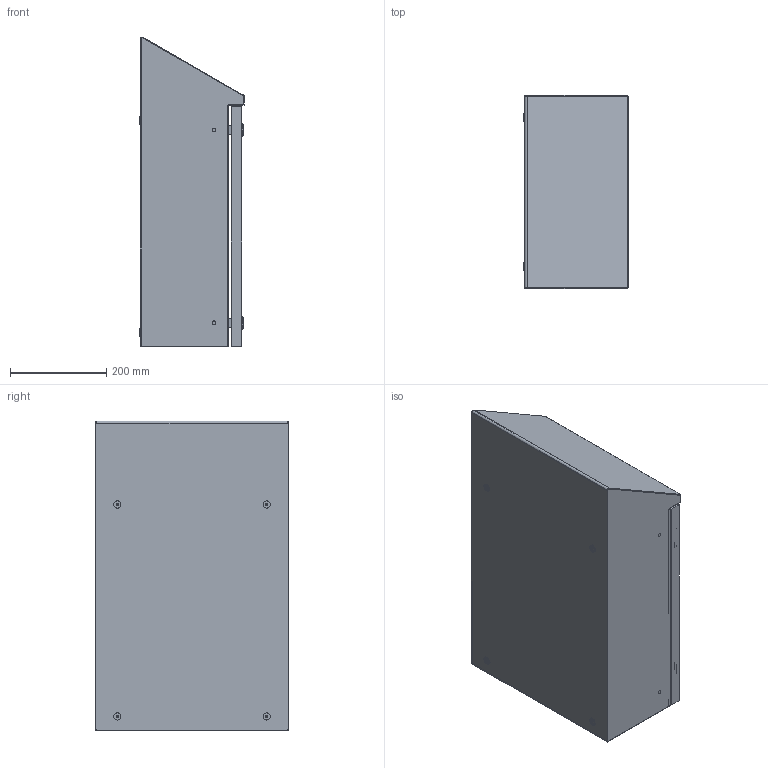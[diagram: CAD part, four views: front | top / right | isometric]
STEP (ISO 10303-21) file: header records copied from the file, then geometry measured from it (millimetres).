
FILE_DESCRIPTION(/* description */ ('Unknown'),/* implementation_level */ '2;1');
FILE_NAME(/* name */ 'CHA04005021',/* time_stamp */ '2024-10-08T08:28:17+02:00',/* author */ ('Unknown'),/* organization */ ('Unknown'),/* preprocessor_version */ 'ST-DEVELOPER v19.4',/* originating_system */ 'Solid Edge',/* authorisation */ 'Unknown');
FILE_SCHEMA (('CONFIG_CONTROL_DESIGN'));
Length unit declared in the file: millimetre
Products named in the file (16): CHA04005021; C000X002.14; C0000001.91; C0000000.04; AE00316.01; AE00601.01; C0000000.05; C0000000.01; AE00891.02; AE00417.01; C000X000.19_oa_0; C000X000.20_oa_1; C0000000.32; C0000000.02; AE00198.02; AE00989.09
Assembly tree (33 placements, depth 4):
  CHA04005021
    C000X002.14
      C0000001.91
      C0000000.04  x4
      AE00316.01  x2
      AE00601.01  x2
      C0000000.05  x4
      C0000000.01  x2
      AE00891.02  x2
      AE00417.01  x4
    C000X000.19_oa_0
      C000X000.20_oa_1
        C0000000.32
      C0000000.02  x2
      AE00198.02  x2
      AE00989.09  x2
      AE00417.01  x2
Bounding box: 216 x 400.11 x 643.05 mm (x, y, z)
Volume: 1663107.3 mm3; surface area: 1918563.9 mm2
Topology: 32 solids, 32 shells, 687 faces, 1691 edges, 1093 vertices
Faces by surface type: plane 448, cylinder 164, cone 34, torus 32, bspline 9
Full cylindrical faces by diameter (mm): 4 x2, 4.917 x6, 4.918 x2, 5.4 x2, 6 x12, 6.4 x2, 7.5 x6, 8 x4, 8.376 x8, 10 x6, 10.25 x4, 10.5 x2, 11 x2, 13.6 x2, 14 x4, 15 x4, 16 x4, 16.3 x2, 19.5 x2, 28 x2
Entity records: 13081 total; most frequent: CARTESIAN_POINT 2333, DIRECTION 1864, ORIENTED_EDGE 1806, EDGE_CURVE 903, LINE 636, VECTOR 636, AXIS2_PLACEMENT_3D 614, VERTEX_POINT 609
